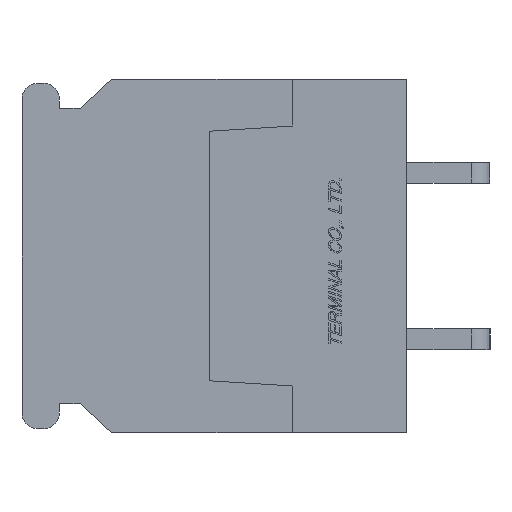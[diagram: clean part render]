
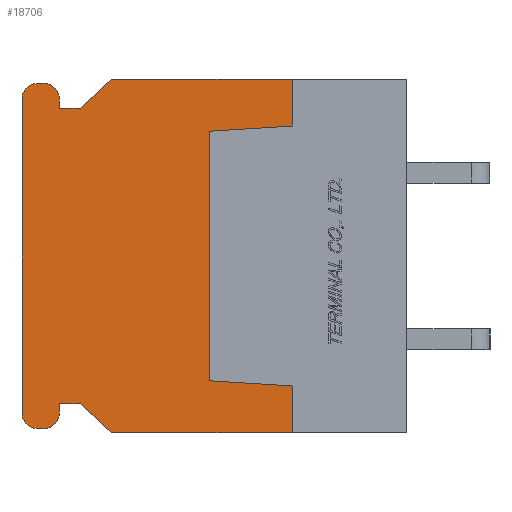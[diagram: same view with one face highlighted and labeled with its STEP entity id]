
A CAD part, left-side view. The second image highlights one B-rep face of the part: STEP entity #18706.
In plain terms, the highlighted planar face has unit normal (-1, 0, 0).
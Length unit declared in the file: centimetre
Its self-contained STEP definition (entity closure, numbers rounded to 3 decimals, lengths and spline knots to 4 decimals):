
#1915=VECTOR('',#22405,1.);
#1918=VECTOR('',#22409,1.);
#1920=VECTOR('',#22412,1.);
#1922=VECTOR('',#22415,1.);
#1924=VECTOR('',#22418,1.);
#1975=VECTOR('',#22479,1.);
#2040=VECTOR('',#22570,1.);
#2331=VECTOR('',#23140,1.);
#2332=VECTOR('',#23141,1.);
#2333=VECTOR('',#23142,1.);
#2334=VECTOR('',#23145,1.);
#2335=VECTOR('',#23148,1.);
#2336=VECTOR('',#23151,1.);
#2337=VECTOR('',#23154,1.);
#2338=VECTOR('',#23155,1.);
#2339=VECTOR('',#23156,1.);
#3969=LINE('',#28154,#1915);
#3972=LINE('',#28160,#1918);
#3974=LINE('',#28164,#1920);
#3976=LINE('',#28168,#1922);
#3978=LINE('',#28172,#1924);
#4029=LINE('',#28282,#1975);
#4094=LINE('',#28418,#2040);
#4385=LINE('',#29104,#2331);
#4386=LINE('',#29106,#2332);
#4387=LINE('',#29108,#2333);
#4388=LINE('',#29112,#2334);
#4389=LINE('',#29116,#2335);
#4390=LINE('',#29120,#2336);
#4391=LINE('',#29124,#2337);
#4392=LINE('',#29126,#2338);
#4393=LINE('',#29128,#2339);
#6032=VERTEX_POINT('',#28153);
#6033=VERTEX_POINT('',#28155);
#6034=VERTEX_POINT('',#28159);
#6035=VERTEX_POINT('',#28163);
#6036=VERTEX_POINT('',#28167);
#6037=VERTEX_POINT('',#28171);
#6091=VERTEX_POINT('',#28283);
#6143=VERTEX_POINT('',#28417);
#6344=VERTEX_POINT('',#29105);
#6345=VERTEX_POINT('',#29107);
#6346=VERTEX_POINT('',#29109);
#6347=VERTEX_POINT('',#29111);
#6348=VERTEX_POINT('',#29113);
#6349=VERTEX_POINT('',#29115);
#6350=VERTEX_POINT('',#29117);
#6351=VERTEX_POINT('',#29119);
#6352=VERTEX_POINT('',#29121);
#6353=VERTEX_POINT('',#29123);
#6354=VERTEX_POINT('',#29125);
#6355=VERTEX_POINT('',#29127);
#7097=CIRCLE('',#31985,0.075);
#7098=CIRCLE('',#31986,0.075);
#7099=CIRCLE('',#31987,0.075);
#7100=CIRCLE('',#31988,0.075);
#8856=EDGE_CURVE('',#6033,#6032,#3969,.T.);
#8859=EDGE_CURVE('',#6032,#6034,#3972,.T.);
#8861=EDGE_CURVE('',#6034,#6035,#3974,.T.);
#8863=EDGE_CURVE('',#6035,#6036,#3976,.T.);
#8865=EDGE_CURVE('',#6036,#6037,#3978,.T.);
#8920=EDGE_CURVE('',#6033,#6091,#4029,.T.);
#8989=EDGE_CURVE('',#6143,#6037,#4094,.T.);
#9336=EDGE_CURVE('',#6344,#6143,#4385,.T.);
#9337=EDGE_CURVE('',#6345,#6344,#4386,.T.);
#9338=EDGE_CURVE('',#6346,#6345,#4387,.T.);
#9339=EDGE_CURVE('',#6347,#6346,#7097,.T.);
#9340=EDGE_CURVE('',#6348,#6347,#4388,.T.);
#9341=EDGE_CURVE('',#6349,#6348,#7098,.T.);
#9342=EDGE_CURVE('',#6350,#6349,#4389,.T.);
#9343=EDGE_CURVE('',#6351,#6350,#7099,.T.);
#9344=EDGE_CURVE('',#6352,#6351,#4390,.T.);
#9345=EDGE_CURVE('',#6353,#6352,#7100,.T.);
#9346=EDGE_CURVE('',#6354,#6353,#4391,.T.);
#9347=EDGE_CURVE('',#6355,#6354,#4392,.T.);
#9348=EDGE_CURVE('',#6091,#6355,#4393,.T.);
#14331=ORIENTED_EDGE('',*,*,#8865,.T.);
#14332=ORIENTED_EDGE('',*,*,#8989,.F.);
#14333=ORIENTED_EDGE('',*,*,#9336,.F.);
#14334=ORIENTED_EDGE('',*,*,#9337,.F.);
#14335=ORIENTED_EDGE('',*,*,#9338,.F.);
#14336=ORIENTED_EDGE('',*,*,#9339,.F.);
#14337=ORIENTED_EDGE('',*,*,#9340,.F.);
#14338=ORIENTED_EDGE('',*,*,#9341,.F.);
#14339=ORIENTED_EDGE('',*,*,#9342,.F.);
#14340=ORIENTED_EDGE('',*,*,#9343,.F.);
#14341=ORIENTED_EDGE('',*,*,#9344,.F.);
#14342=ORIENTED_EDGE('',*,*,#9345,.F.);
#14343=ORIENTED_EDGE('',*,*,#9346,.F.);
#14344=ORIENTED_EDGE('',*,*,#9347,.F.);
#14345=ORIENTED_EDGE('',*,*,#9348,.F.);
#14346=ORIENTED_EDGE('',*,*,#8920,.F.);
#14347=ORIENTED_EDGE('',*,*,#8856,.T.);
#14348=ORIENTED_EDGE('',*,*,#8859,.T.);
#14349=ORIENTED_EDGE('',*,*,#8861,.T.);
#14350=ORIENTED_EDGE('',*,*,#8863,.T.);
#16468=EDGE_LOOP('',(#14331,#14332,#14333,#14334,#14335,#14336,#14337,#14338,
#14339,#14340,#14341,#14342,#14343,#14344,#14345,#14346,#14347,#14348,#14349,
#14350));
#17642=FACE_BOUND('',#16468,.T.);
#18706=ADVANCED_FACE('',(#17642),#19530,.F.);
#19530=PLANE('',#31984);
#22405=DIRECTION('',(0.,0.,1.));
#22409=DIRECTION('',(0.,0.998,0.062));
#22412=DIRECTION('',(0.,0.,1.));
#22415=DIRECTION('',(0.,-0.998,0.062));
#22418=DIRECTION('',(0.,0.,1.));
#22479=DIRECTION('',(0.,1.,0.));
#22570=DIRECTION('',(0.,-1.,0.));
#23139=DIRECTION('',(1.,0.,0.));
#23140=DIRECTION('',(0.,-0.731,0.682));
#23141=DIRECTION('',(0.,-1.,0.));
#23142=DIRECTION('',(0.,0.,-1.));
#23143=DIRECTION('',(1.,0.,0.));
#23144=DIRECTION('',(0.,0.,-0.075));
#23145=DIRECTION('',(0.,-1.,0.));
#23146=DIRECTION('',(1.,0.,0.));
#23147=DIRECTION('',(0.,0.,-0.075));
#23148=DIRECTION('',(0.,0.,1.));
#23149=DIRECTION('',(1.,0.,0.));
#23150=DIRECTION('',(0.,0.,-0.075));
#23151=DIRECTION('',(0.,1.,0.));
#23152=DIRECTION('',(1.,0.,0.));
#23153=DIRECTION('',(0.,0.,-0.075));
#23154=DIRECTION('',(0.,0.,-1.));
#23155=DIRECTION('',(0.,1.,0.));
#23156=DIRECTION('',(0.,0.731,0.682));
#28153=CARTESIAN_POINT('',(-1.,0.55,-0.625));
#28154=CARTESIAN_POINT('',(-1.,0.55,-0.3687));
#28155=CARTESIAN_POINT('',(-1.,0.55,-0.85));
#28159=CARTESIAN_POINT('',(-1.,0.95,-0.6));
#28160=CARTESIAN_POINT('',(-1.,0.8629,-0.6054));
#28163=CARTESIAN_POINT('',(-1.,0.95,0.6));
#28164=CARTESIAN_POINT('',(-1.,0.95,0.));
#28167=CARTESIAN_POINT('',(-1.,0.55,0.625));
#28168=CARTESIAN_POINT('',(-1.,0.8629,0.6054));
#28171=CARTESIAN_POINT('',(-1.,0.55,0.85));
#28172=CARTESIAN_POINT('',(-1.,0.55,0.3687));
#28282=CARTESIAN_POINT('',(-1.,0.,-0.85));
#28283=CARTESIAN_POINT('',(-1.,1.42,-0.85));
#28417=CARTESIAN_POINT('',(-1.,1.42,0.85));
#28418=CARTESIAN_POINT('',(-1.,1.42,0.85));
#29103=CARTESIAN_POINT('',(-1.,0.9383,0.));
#29104=CARTESIAN_POINT('',(-1.,1.57,0.71));
#29105=CARTESIAN_POINT('',(-1.,1.57,0.71));
#29106=CARTESIAN_POINT('',(-1.,1.67,0.71));
#29107=CARTESIAN_POINT('',(-1.,1.67,0.71));
#29108=CARTESIAN_POINT('',(-1.,1.67,0.755));
#29109=CARTESIAN_POINT('',(-1.,1.67,0.755));
#29110=CARTESIAN_POINT('',(-1.,1.745,0.755));
#29111=CARTESIAN_POINT('',(-1.,1.745,0.83));
#29112=CARTESIAN_POINT('',(-1.,1.775,0.83));
#29113=CARTESIAN_POINT('',(-1.,1.775,0.83));
#29114=CARTESIAN_POINT('',(-1.,1.775,0.755));
#29115=CARTESIAN_POINT('',(-1.,1.85,0.755));
#29116=CARTESIAN_POINT('',(-1.,1.85,-0.755));
#29117=CARTESIAN_POINT('',(-1.,1.85,-0.755));
#29118=CARTESIAN_POINT('',(-1.,1.775,-0.755));
#29119=CARTESIAN_POINT('',(-1.,1.775,-0.83));
#29120=CARTESIAN_POINT('',(-1.,1.745,-0.83));
#29121=CARTESIAN_POINT('',(-1.,1.745,-0.83));
#29122=CARTESIAN_POINT('',(-1.,1.745,-0.755));
#29123=CARTESIAN_POINT('',(-1.,1.67,-0.755));
#29124=CARTESIAN_POINT('',(-1.,1.67,-0.71));
#29125=CARTESIAN_POINT('',(-1.,1.67,-0.71));
#29126=CARTESIAN_POINT('',(-1.,1.57,-0.71));
#29127=CARTESIAN_POINT('',(-1.,1.57,-0.71));
#29128=CARTESIAN_POINT('',(-1.,1.42,-0.85));
#31984=AXIS2_PLACEMENT_3D('',#29103,#23139,$);
#31985=AXIS2_PLACEMENT_3D('',#29110,#23143,#23144);
#31986=AXIS2_PLACEMENT_3D('',#29114,#23146,#23147);
#31987=AXIS2_PLACEMENT_3D('',#29118,#23149,#23150);
#31988=AXIS2_PLACEMENT_3D('',#29122,#23152,#23153);
